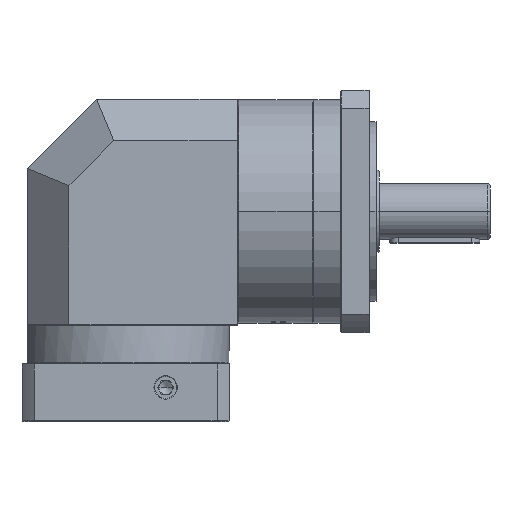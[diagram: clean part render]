
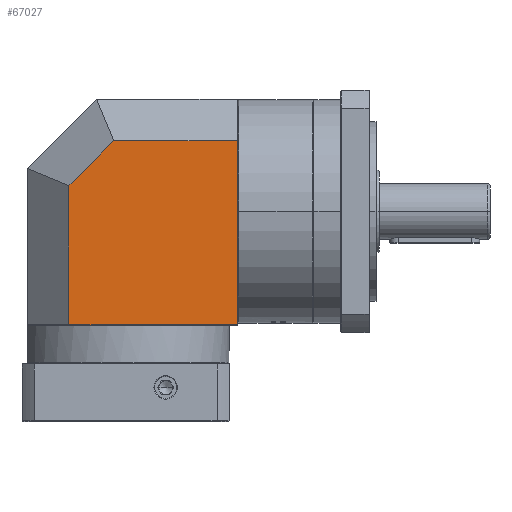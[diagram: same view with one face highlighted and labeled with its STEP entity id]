
A CAD part, top view. The second image highlights one B-rep face of the part: STEP entity #67027.
In plain terms, the highlighted planar face has unit normal (0, 0, 1).
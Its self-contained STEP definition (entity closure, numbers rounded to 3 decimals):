
#2512 = CARTESIAN_POINT ( 'NONE',  ( -61.895, -92.177, 258.649 ) ) ;
#9907 = ORIENTED_EDGE ( 'NONE', *, *, #120015, .T. ) ;
#10424 = VECTOR ( 'NONE', #136327, 1000. ) ;
#14528 = VECTOR ( 'NONE', #63113, 1000. ) ;
#15644 = CARTESIAN_POINT ( 'NONE',  ( -48.221, -225.177, 258.649 ) ) ;
#20263 = LINE ( 'NONE', #15644, #147701 ) ;
#28637 = VERTEX_POINT ( 'NONE', #2512 ) ;
#30308 = DIRECTION ( 'NONE',  ( 0., -1., 0. ) ) ;
#30842 = VECTOR ( 'NONE', #91814, 1000. ) ;
#31618 = CARTESIAN_POINT ( 'NONE',  ( 27.379, -225.177, 258.649 ) ) ;
#36493 = VERTEX_POINT ( 'NONE', #143949 ) ;
#41522 = ORIENTED_EDGE ( 'NONE', *, *, #96693, .F. ) ;
#44144 = VERTEX_POINT ( 'NONE', #88444 ) ;
#44293 = EDGE_CURVE ( 'NONE', #36493, #44144, #111623, .T. ) ;
#56645 = FACE_OUTER_BOUND ( 'NONE', #91641, .T. ) ;
#62235 = DIRECTION ( 'NONE',  ( 1., 0., 0. ) ) ;
#63113 = DIRECTION ( 'NONE',  ( 0., -1., 0. ) ) ;
#67027 = ADVANCED_FACE ( 'NONE', ( #56645 ), #145015, .T. ) ;
#67072 = VERTEX_POINT ( 'NONE', #122457 ) ;
#81314 = CARTESIAN_POINT ( 'NONE',  ( -48.221, -92.177, 258.649 ) ) ;
#85179 = LINE ( 'NONE', #81314, #30842 ) ;
#87107 = AXIS2_PLACEMENT_3D ( 'NONE', #119879, #144478, #120385 ) ;
#88171 = EDGE_CURVE ( 'NONE', #28637, #36493, #111625, .T. ) ;
#88444 = CARTESIAN_POINT ( 'NONE',  ( -94.321, -225.177, 258.649 ) ) ;
#90191 = VERTEX_POINT ( 'NONE', #31618 ) ;
#91641 = EDGE_LOOP ( 'NONE', ( #9907, #147161, #41522, #120190, #141399 ) ) ;
#91814 = DIRECTION ( 'NONE',  ( 1., 0., 0. ) ) ;
#96693 = EDGE_CURVE ( 'NONE', #28637, #67072, #85179, .T. ) ;
#104564 = EDGE_CURVE ( 'NONE', #67072, #90191, #123192, .T. ) ;
#111623 = LINE ( 'NONE', #139285, #139743 ) ;
#111625 = LINE ( 'NONE', #124814, #10424 ) ;
#119879 = CARTESIAN_POINT ( 'NONE',  ( -48.221, -143.927, 258.649 ) ) ;
#120015 = EDGE_CURVE ( 'NONE', #44144, #90191, #20263, .T. ) ;
#120190 = ORIENTED_EDGE ( 'NONE', *, *, #88171, .T. ) ;
#120385 = DIRECTION ( 'NONE',  ( 1., 0., 0. ) ) ;
#122457 = CARTESIAN_POINT ( 'NONE',  ( 27.379, -92.177, 258.649 ) ) ;
#123192 = LINE ( 'NONE', #133346, #14528 ) ;
#124814 = CARTESIAN_POINT ( 'NONE',  ( -61.895, -92.177, 258.649 ) ) ;
#133346 = CARTESIAN_POINT ( 'NONE',  ( 27.379, -143.927, 258.649 ) ) ;
#136327 = DIRECTION ( 'NONE',  ( -0.707, -0.707, 0. ) ) ;
#139285 = CARTESIAN_POINT ( 'NONE',  ( -94.321, -143.927, 258.649 ) ) ;
#139743 = VECTOR ( 'NONE', #30308, 1000. ) ;
#141399 = ORIENTED_EDGE ( 'NONE', *, *, #44293, .T. ) ;
#143949 = CARTESIAN_POINT ( 'NONE',  ( -94.321, -124.603, 258.649 ) ) ;
#144478 = DIRECTION ( 'NONE',  ( 0., 0., 1. ) ) ;
#145015 = PLANE ( 'NONE',  #87107 ) ;
#147161 = ORIENTED_EDGE ( 'NONE', *, *, #104564, .F. ) ;
#147701 = VECTOR ( 'NONE', #62235, 1000. ) ;
